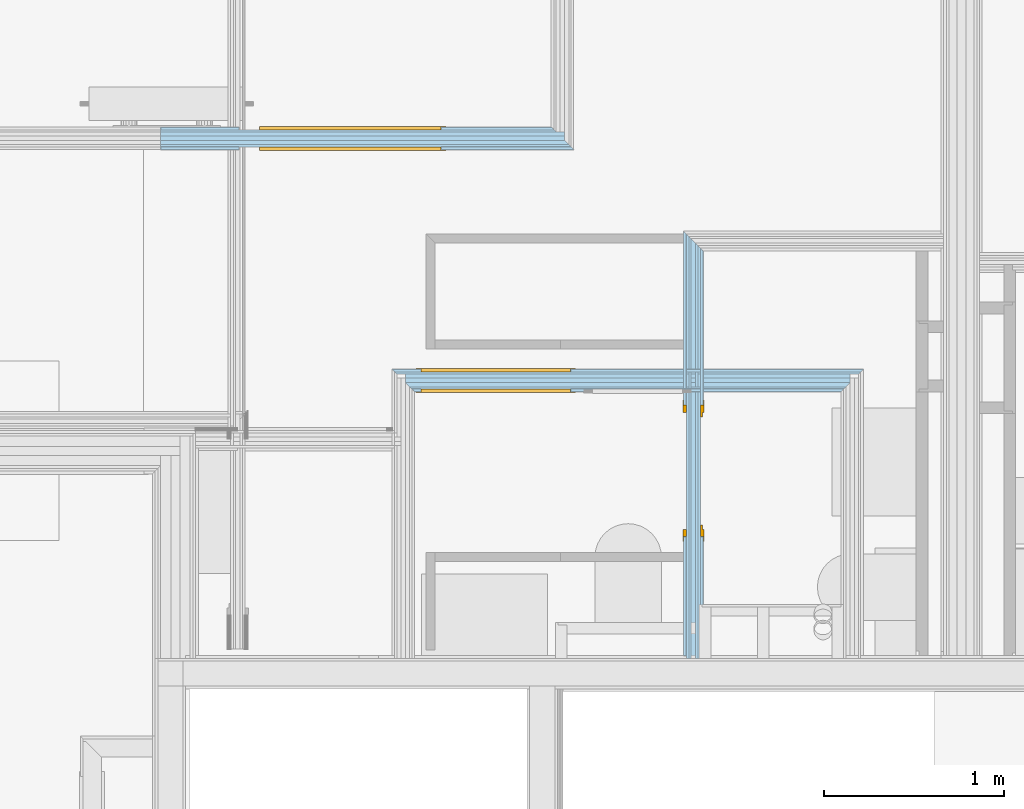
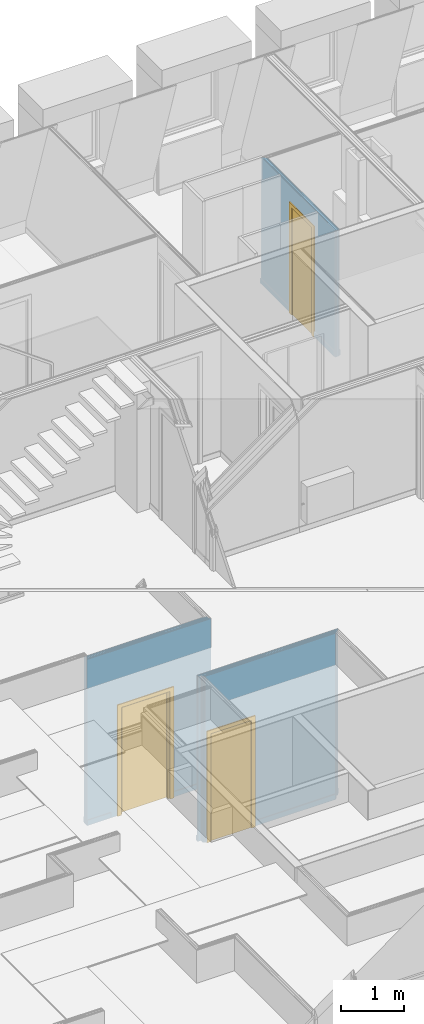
# One storey, part 88 of 169: 3 doors, 3 openings, 3 elements without a shape of their own, plus 21 elements that do not belong to this part.
"""IFC2X3 building model written with IfcOpenShell, lengths in metres."""

from ifc_helpers import new_model, entity, si_unit, converted_unit, derived_unit, money_unit, direction, frame, frame_2d, origin_with_axes, place, context, subcontext, project, spatial, polyline, rectangle, outline, extrude, faceted_brep, material, type_object, element, fill, aggregate, save


model = new_model("IFC2X3")

# Units and contexts
model_context = context("Model", 3, precision=1e-05, world=origin_with_axes(), true_north=direction((0.0, 1.0)))
body_context = subcontext(model_context, "Body", "Model", "MODEL_VIEW", scale=1.0)
ifc_project = project(units=[si_unit("LENGTHUNIT", "METRE"), si_unit("AREAUNIT", "SQUARE_METRE"), si_unit("VOLUMEUNIT", "CUBIC_METRE"), si_unit("ABSORBEDDOSEUNIT", "GRAY"), si_unit("AMOUNTOFSUBSTANCEUNIT", "MOLE"), si_unit("DOSEEQUIVALENTUNIT", "SIEVERT"), si_unit("ELECTRICCAPACITANCEUNIT", "FARAD"), si_unit("ELECTRICCHARGEUNIT", "COULOMB"), si_unit("ELECTRICCONDUCTANCEUNIT", "SIEMENS"), si_unit("ELECTRICCURRENTUNIT", "AMPERE"), si_unit("ELECTRICRESISTANCEUNIT", "OHM"), si_unit("ELECTRICVOLTAGEUNIT", "VOLT"), si_unit("ENERGYUNIT", "JOULE"), si_unit("FORCEUNIT", "NEWTON"), si_unit("FREQUENCYUNIT", "HERTZ"), si_unit("ILLUMINANCEUNIT", "LUX"), si_unit("INDUCTANCEUNIT", "HENRY"), si_unit("LUMINOUSFLUXUNIT", "LUMEN"), si_unit("LUMINOUSINTENSITYUNIT", "CANDELA"), si_unit("MAGNETICFLUXDENSITYUNIT", "TESLA"), si_unit("MAGNETICFLUXUNIT", "WEBER"), si_unit("MASSUNIT", "GRAM"), converted_unit("PLANEANGLEUNIT", "degree", entity("IfcReal", 0.0174532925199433), si_unit("PLANEANGLEUNIT", "RADIAN"), dimensions=[0, 0, 0, 0, 0, 0, 0]), si_unit("POWERUNIT", "WATT"), si_unit("PRESSUREUNIT", "PASCAL"), si_unit("RADIOACTIVITYUNIT", "BECQUEREL"), si_unit("SOLIDANGLEUNIT", "STERADIAN"), si_unit("THERMODYNAMICTEMPERATUREUNIT", "KELVIN"), si_unit("TIMEUNIT", "SECOND"), derived_unit("ACCELERATIONUNIT", [(si_unit("LENGTHUNIT", "METRE"), 1), (si_unit("TIMEUNIT", "SECOND"), -2)]), derived_unit("ANGULARVELOCITYUNIT", [(converted_unit("PLANEANGLEUNIT", "degree", entity("IfcReal", 0.0174532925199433), si_unit("PLANEANGLEUNIT", "RADIAN"), dimensions=[0, 0, 0, 0, 0, 0, 0]), 1), (si_unit("TIMEUNIT", "SECOND"), -1)]), derived_unit("CURVATUREUNIT", [(converted_unit("PLANEANGLEUNIT", "degree", entity("IfcReal", 0.0174532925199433), si_unit("PLANEANGLEUNIT", "RADIAN"), dimensions=[0, 0, 0, 0, 0, 0, 0]), 1), (si_unit("LENGTHUNIT", "METRE"), -1)]), derived_unit("DYNAMICVISCOSITYUNIT", [(si_unit("PRESSUREUNIT", "PASCAL"), 1), (si_unit("TIMEUNIT", "SECOND"), 1)]), derived_unit("HEATFLUXDENSITYUNIT", [(si_unit("POWERUNIT", "WATT"), 1), (si_unit("LENGTHUNIT", "METRE"), -2)]), derived_unit("HEATINGVALUEUNIT", [(si_unit("ENERGYUNIT", "JOULE"), 1), (si_unit("MASSUNIT", "GRAM"), -1)]), derived_unit("INTEGERCOUNTRATEUNIT", [(si_unit("TIMEUNIT", "SECOND"), -1)]), derived_unit("IONCONCENTRATIONUNIT", [(si_unit("MASSUNIT", "GRAM"), 1), (si_unit("VOLUMEUNIT", "CUBIC_METRE"), -1)]), derived_unit("ISOTHERMALMOISTURECAPACITYUNIT", [(si_unit("VOLUMEUNIT", "CUBIC_METRE"), 1), (si_unit("MASSUNIT", "GRAM"), -1)]), derived_unit("KINEMATICVISCOSITYUNIT", [(si_unit("AREAUNIT", "SQUARE_METRE"), 1), (si_unit("TIMEUNIT", "SECOND"), -1)]), derived_unit("LINEARFORCEUNIT", [(si_unit("FORCEUNIT", "NEWTON"), 1), (si_unit("LENGTHUNIT", "METRE"), -1)]), derived_unit("LINEARMOMENTUNIT", [(si_unit("FORCEUNIT", "NEWTON"), 1), (si_unit("LENGTHUNIT", "METRE"), -1)]), derived_unit("LINEARSTIFFNESSUNIT", [(si_unit("FORCEUNIT", "NEWTON"), 1), (si_unit("LENGTHUNIT", "METRE"), -1)]), derived_unit("LINEARVELOCITYUNIT", [(si_unit("LENGTHUNIT", "METRE"), 1), (si_unit("TIMEUNIT", "SECOND"), -1)]), derived_unit("LUMINOUSINTENSITYDISTRIBUTIONUNIT", [(si_unit("LUMINOUSINTENSITYUNIT", "CANDELA"), 1), (si_unit("LUMINOUSFLUXUNIT", "LUMEN"), -1)]), derived_unit("MASSDENSITYUNIT", [(si_unit("MASSUNIT", "GRAM"), 1), (si_unit("VOLUMEUNIT", "CUBIC_METRE"), -1)]), derived_unit("MASSFLOWRATEUNIT", [(si_unit("MASSUNIT", "GRAM"), 1), (si_unit("TIMEUNIT", "SECOND"), -1)]), derived_unit("MASSPERLENGTHUNIT", [(si_unit("MASSUNIT", "GRAM"), 1), (si_unit("LENGTHUNIT", "METRE"), -1)]), derived_unit("MODULUSOFELASTICITYUNIT", [(si_unit("FORCEUNIT", "NEWTON"), 1), (si_unit("AREAUNIT", "SQUARE_METRE"), -1)]), derived_unit("MODULUSOFLINEARSUBGRADEREACTIONUNIT", [(si_unit("FORCEUNIT", "NEWTON"), 1), (si_unit("LENGTHUNIT", "METRE"), -2)]), derived_unit("MODULUSOFROTATIONALSUBGRADEREACTIONUNIT", [(si_unit("FORCEUNIT", "NEWTON"), 1), (si_unit("LENGTHUNIT", "METRE"), 1)]), derived_unit("MODULUSOFSUBGRADEREACTIONUNIT", [(si_unit("FORCEUNIT", "NEWTON"), 1), (si_unit("VOLUMEUNIT", "CUBIC_METRE"), -1)]), derived_unit("MOISTUREDIFFUSIVITYUNIT", [(si_unit("VOLUMEUNIT", "CUBIC_METRE"), 1), (si_unit("TIMEUNIT", "SECOND"), -1)]), derived_unit("MOLECULARWEIGHTUNIT", [(si_unit("MASSUNIT", "GRAM"), 1), (si_unit("AMOUNTOFSUBSTANCEUNIT", "MOLE"), -1)]), derived_unit("PLANARFORCEUNIT", [(si_unit("FORCEUNIT", "NEWTON"), 1), (si_unit("LENGTHUNIT", "METRE"), -2)]), derived_unit("ROTATIONALFREQUENCYUNIT", [(si_unit("TIMEUNIT", "SECOND"), -1)]), derived_unit("ROTATIONALMASSUNIT", [(si_unit("MASSUNIT", "GRAM"), 1), (si_unit("LENGTHUNIT", "METRE"), 2)]), derived_unit("ROTATIONALSTIFFNESSUNIT", [(si_unit("FORCEUNIT", "NEWTON"), 1), (si_unit("LENGTHUNIT", "METRE"), 1), (converted_unit("PLANEANGLEUNIT", "degree", entity("IfcReal", 0.0174532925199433), si_unit("PLANEANGLEUNIT", "RADIAN"), dimensions=[0, 0, 0, 0, 0, 0, 0]), -1)]), derived_unit("SECTIONAREAINTEGRALUNIT", [(si_unit("LENGTHUNIT", "METRE"), 5)]), derived_unit("SECTIONMODULUSUNIT", [(si_unit("LENGTHUNIT", "METRE"), 3)]), derived_unit("SHEARMODULUSUNIT", [(si_unit("FORCEUNIT", "NEWTON"), 1), (si_unit("AREAUNIT", "SQUARE_METRE"), -1)]), derived_unit("SOUNDPOWERUNIT", [(si_unit("ENERGYUNIT", "JOULE"), 1), (si_unit("TIMEUNIT", "SECOND"), -1)]), derived_unit("SPECIFICHEATCAPACITYUNIT", [(si_unit("FORCEUNIT", "NEWTON"), 1), (si_unit("MASSUNIT", "GRAM"), -1), (si_unit("THERMODYNAMICTEMPERATUREUNIT", "KELVIN"), -1)]), derived_unit("TEMPERATUREGRADIENTUNIT", [(si_unit("THERMODYNAMICTEMPERATUREUNIT", "KELVIN"), 1), (si_unit("LENGTHUNIT", "METRE"), -1)]), derived_unit("THERMALADMITTANCEUNIT", [(si_unit("POWERUNIT", "WATT"), 1), (si_unit("AREAUNIT", "SQUARE_METRE"), -1), (si_unit("THERMODYNAMICTEMPERATUREUNIT", "KELVIN"), -1)]), derived_unit("THERMALCONDUCTANCEUNIT", [(si_unit("POWERUNIT", "WATT"), 1), (si_unit("LENGTHUNIT", "METRE"), -1), (si_unit("THERMODYNAMICTEMPERATUREUNIT", "KELVIN"), -1)]), derived_unit("THERMALEXPANSIONCOEFFICIENTUNIT", [(si_unit("THERMODYNAMICTEMPERATUREUNIT", "KELVIN"), -1)]), derived_unit("THERMALRESISTANCEUNIT", [(si_unit("AREAUNIT", "SQUARE_METRE"), 1), (si_unit("POWERUNIT", "WATT"), -1)]), derived_unit("THERMALTRANSMITTANCEUNIT", [(si_unit("POWERUNIT", "WATT"), 1), (si_unit("AREAUNIT", "SQUARE_METRE"), -1), (si_unit("THERMODYNAMICTEMPERATUREUNIT", "KELVIN"), -1)]), derived_unit("TORQUEUNIT", [(si_unit("FORCEUNIT", "NEWTON"), 1), (si_unit("LENGTHUNIT", "METRE"), 1)]), derived_unit("VAPORPERMEABILITYUNIT", [(si_unit("MASSUNIT", "GRAM"), 1), (si_unit("TIMEUNIT", "SECOND"), -1)]), derived_unit("VOLUMETRICFLOWRATEUNIT", [(si_unit("VOLUMEUNIT", "CUBIC_METRE"), 1), (si_unit("TIMEUNIT", "SECOND"), -1)]), derived_unit("WARPINGCONSTANTUNIT", [(si_unit("LENGTHUNIT", "METRE"), 6)]), derived_unit("WARPINGMOMENTUNIT", [(si_unit("FORCEUNIT", "NEWTON"), 1), (si_unit("LENGTHUNIT", "METRE"), 2)]), money_unit("GBP")], contexts=[model_context])

# Site, building, storey, space
site_placement = place(None, origin_with_axes())
site = spatial("IfcSite", under=ifc_project, at=site_placement, Name="Site", CompositionType="ELEMENT")
building_placement = place(site_placement, origin_with_axes())
building = spatial("IfcBuilding", under=site, at=building_placement, Name="Building01", CompositionType="ELEMENT")
storey_placement = place(building_placement, frame((0.0, 0.0, 5.15), z_axis=(0.0, 0.0, 1.0), x_axis=(1.0, 0.0, 0.0)))
storey = spatial("IfcBuildingStorey", under=building, at=storey_placement, Name="1F", CompositionType="ELEMENT", Elevation=5.15)
space_1_placement = place(storey_placement, frame((1.009939, 13.890379, 9.86), z_axis=(0.0, 0.0, 1.0), x_axis=(0.0, -1.0, 0.0)))
space_1 = spatial("IfcSpace", under=storey, at=space_1_placement, Name="26", CompositionType="ELEMENT", InteriorOrExteriorSpace="NOTDEFINED")

# Door
ifc_material_1 = material(Name="A_BSUK_Doors")
door_style_1 = type_object("IfcDoorStyle", Name="A-Doors-SingleFlush", ConstructionType="USERDEFINED", OperationType="SINGLE_SWING_RIGHT", ParameterTakesPrecedence=False, Sizeable=False)
wall_3_placement = place(storey_placement, frame((12.044381, 11.156849, 9.83), z_axis=(0.0, 0.0, 1.0), x_axis=(0.0, -1.0, 0.0)))
opening_3_placement = place(wall_3_placement, frame((0.926, -0.042, 0.0), z_axis=(0.0, 0.0, 1.0), x_axis=(1.0, 0.0, 0.0)))
door_1_placement = place(opening_3_placement, frame((0.692, 0.015, 0.0), z_axis=(0.0, 0.0, 1.0), x_axis=(-1.0, 0.0, 0.0)))
door_1 = element("IfcDoor", 1, at=door_1_placement, inside=space_1, type_object=door_style_1, material=ifc_material_1, Name="4.31", ObjectType="A-Doors-SingleFlush", OverallHeight=2.142, OverallWidth=0.734, context=body_context, shape_type="Brep", body=[
    faceted_brep([(0.65, -0.099, 0.0), (0.719, -0.099, 0.0), (0.719, -0.099, 2.169), (-0.069, -0.099, 2.169), (-0.069, -0.099, 0.0), (0.0, -0.099, 0.0), (0.0, -0.099, 2.1), (0.65, -0.099, 2.1), (-0.069, -0.08, 0.0), (-0.069, -0.08, 2.169), (0.719, -0.08, 2.169), (0.719, -0.08, 0.0), (0.65, 0.019, 0.0), (0.719, 0.019, 0.0), (0.719, 0.0, 0.0), (0.692, 0.0, 0.0), (0.692, -0.08, 0.0), (0.65, 0.019, 2.1), (0.0, 0.019, 2.1), (0.0, 0.019, 0.0), (-0.069, 0.019, 0.0), (-0.069, 0.019, 2.169), (0.719, 0.019, 2.169), (0.719, 0.0, 2.169), (0.692, -0.08, 2.142), (0.692, 0.0, 2.142), (-0.042, -0.08, 2.142), (-0.042, 0.0, 2.142), (-0.042, -0.08, 0.0), (-0.042, 0.0, 0.0), (-0.069, 0.0, 2.169), (-0.069, 0.0, 0.0)], [[[0, 1, 2, 3, 4, 5, 6, 7]], [[8, 4, 3, 9]], [[10, 2, 1, 11]], [[9, 3, 2, 10]], [[12, 13, 14, 15, 16, 11, 1, 0]], [[7, 17, 12, 0]], [[6, 18, 17, 7]], [[18, 19, 20, 21, 22, 13, 12, 17]], [[5, 19, 18, 6]], [[13, 22, 23, 14]], [[24, 16, 15, 25]], [[26, 24, 25, 27]], [[11, 16, 24, 26, 28, 8, 9, 10]], [[27, 29, 28, 26]], [[25, 15, 14, 23, 30, 31, 29, 27]], [[5, 4, 8, 28, 29, 31, 20, 19]], [[30, 21, 20, 31]], [[23, 22, 21, 30]]]),
    faceted_brep([(0.0, -0.09, 2.1), (0.0, -0.04, 2.1), (0.0, -0.04, 0.0), (0.0, -0.09, 0.0), (0.625, -0.09, 0.0), (0.65, -0.09, 0.0), (0.65, -0.09, 2.1), (0.025, -0.09, 0.0), (0.025, -0.09, 2.075), (0.625, -0.09, 2.075), (0.625, -0.04, 0.0), (0.65, -0.04, 0.0), (0.65, -0.04, 2.1), (0.025, -0.04, 2.075), (0.025, -0.04, 0.0), (0.625, -0.04, 2.075)], [[[0, 1, 2, 3]], [[4, 5, 6, 0, 3, 7, 8, 9]], [[10, 11, 5, 4]], [[6, 12, 1, 0]], [[5, 11, 12, 6]], [[13, 14, 2, 1, 12, 11, 10, 15]], [[7, 14, 13, 8]], [[7, 3, 2, 14]], [[9, 15, 10, 4]], [[8, 13, 15, 9]]]),
    faceted_brep([(0.65, -0.04, 0.0), (0.65, 0.0, 0.0), (0.65, 0.0, 2.1), (0.65, -0.04, 2.1), (0.0, -0.04, 2.1), (0.0, 0.0, 2.1), (0.0, 0.0, 0.0), (0.0, -0.04, 0.0)], [[[0, 1, 2, 3]], [[4, 5, 6, 7]], [[7, 6, 1, 0]], [[3, 4, 7, 0]], [[3, 2, 5, 4]], [[1, 6, 5, 2]]]),
])

# Space
space_2_placement = place(storey_placement, frame((7.289669, 14.582, 0.017975), z_axis=(0.0, 0.0, 1.0), x_axis=(0.0, -1.0, 0.0)))
space_2 = spatial("IfcSpace", under=storey, at=space_2_placement, Name="08", CompositionType="ELEMENT", InteriorOrExteriorSpace="NOTDEFINED")

# Door
door_style_2 = type_object("IfcDoorStyle", Name="A-Doors-SingleFlush", ConstructionType="USERDEFINED", OperationType="SINGLE_SWING_RIGHT", ParameterTakesPrecedence=False, Sizeable=False)
wall_1_placement = place(storey_placement, frame((10.453871, 10.355, 0.0), z_axis=(0.0, 0.0, 1.0), x_axis=(1.0, 0.0, 0.0)))
opening_1_placement = place(wall_1_placement, frame((0.086065, -0.05, 0.0), z_axis=(0.0, 0.0, 1.0), x_axis=(1.0, 0.0, 0.0)))
door_2_placement = place(opening_1_placement, frame((0.792, 0.015, 0.0), z_axis=(0.0, 0.0, 1.0), x_axis=(-1.0, 0.0, 0.0)))
door_2 = element("IfcDoor", 2, at=door_2_placement, inside=space_2, type_object=door_style_2, material=ifc_material_1, Name="1.26", ObjectType="A-Doors-SingleFlush", OverallHeight=2.142, OverallWidth=0.834, context=body_context, shape_type="Brep", body=[
    faceted_brep([(0.75, -0.114, 0.0), (0.819, -0.114, 0.0), (0.819, -0.114, 2.169), (-0.069, -0.114, 2.169), (-0.069, -0.114, 0.0), (0.0, -0.114, 0.0), (0.0, -0.114, 2.1), (0.75, -0.114, 2.1), (-0.069, -0.095, 0.0), (-0.069, -0.095, 2.169), (0.819, -0.095, 2.169), (0.819, -0.095, 0.0), (0.75, 0.019, 0.0), (0.819, 0.019, 0.0), (0.819, 0.0, 0.0), (0.792, 0.0, 0.0), (0.792, -0.095, 0.0), (0.75, 0.019, 2.1), (0.0, 0.019, 2.1), (0.0, 0.019, 0.0), (-0.069, 0.019, 0.0), (-0.069, 0.019, 2.169), (0.819, 0.019, 2.169), (0.819, 0.0, 2.169), (0.792, -0.095, 2.142), (0.792, 0.0, 2.142), (-0.042, -0.095, 2.142), (-0.042, 0.0, 2.142), (-0.042, -0.095, 0.0), (-0.042, 0.0, 0.0), (-0.069, 0.0, 2.169), (-0.069, 0.0, 0.0)], [[[0, 1, 2, 3, 4, 5, 6, 7]], [[8, 4, 3, 9]], [[10, 2, 1, 11]], [[9, 3, 2, 10]], [[12, 13, 14, 15, 16, 11, 1, 0]], [[7, 17, 12, 0]], [[6, 18, 17, 7]], [[18, 19, 20, 21, 22, 13, 12, 17]], [[5, 19, 18, 6]], [[13, 22, 23, 14]], [[24, 16, 15, 25]], [[26, 24, 25, 27]], [[11, 16, 24, 26, 28, 8, 9, 10]], [[27, 29, 28, 26]], [[25, 15, 14, 23, 30, 31, 29, 27]], [[5, 4, 8, 28, 29, 31, 20, 19]], [[30, 21, 20, 31]], [[23, 22, 21, 30]]]),
    faceted_brep([(0.0, -0.09, 2.1), (0.0, -0.04, 2.1), (0.0, -0.04, 0.0), (0.0, -0.09, 0.0), (0.725, -0.09, 0.0), (0.75, -0.09, 0.0), (0.75, -0.09, 2.1), (0.025, -0.09, 0.0), (0.025, -0.09, 2.075), (0.725, -0.09, 2.075), (0.725, -0.04, 0.0), (0.75, -0.04, 0.0), (0.75, -0.04, 2.1), (0.025, -0.04, 2.075), (0.025, -0.04, 0.0), (0.725, -0.04, 2.075)], [[[0, 1, 2, 3]], [[4, 5, 6, 0, 3, 7, 8, 9]], [[10, 11, 5, 4]], [[6, 12, 1, 0]], [[5, 11, 12, 6]], [[13, 14, 2, 1, 12, 11, 10, 15]], [[7, 14, 13, 8]], [[7, 3, 2, 14]], [[9, 15, 10, 4]], [[8, 13, 15, 9]]]),
    faceted_brep([(0.75, -0.04, 0.0), (0.75, 0.0, 0.0), (0.75, 0.0, 2.1), (0.75, -0.04, 2.1), (0.0, -0.04, 2.1), (0.0, 0.0, 2.1), (0.0, 0.0, 0.0), (0.0, -0.04, 0.0)], [[[0, 1, 2, 3]], [[4, 5, 6, 7]], [[7, 6, 1, 0]], [[3, 4, 7, 0]], [[3, 2, 5, 4]], [[1, 6, 5, 2]]]),
])

wall_2_placement = place(storey_placement, frame((9.09, 11.703124, 0.0), z_axis=(0.0, 0.0, 1.0), x_axis=(1.0, 0.0, 0.0)))
opening_2_placement = place(wall_2_placement, frame((0.579, -0.05, -0.015), z_axis=(0.0, 0.0, 1.0), x_axis=(1.0, 0.0, 0.0)))
door_3_placement = place(opening_2_placement, frame((0.042, 0.11, 0.015), z_axis=(0.0, 0.0, 1.0), x_axis=(1.0, 0.0, 0.0)))
door_3 = element("IfcDoor", 3, at=door_3_placement, inside=space_2, type_object=door_style_2, material=ifc_material_1, Name="1.25", ObjectType="A-Doors-SingleFlush", OverallHeight=2.142, OverallWidth=1.127117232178, context=body_context, shape_type="Brep", body=[
    faceted_brep([(0.9, -0.114, 0.0), (0.969, -0.114, 0.0), (0.969, -0.114, 2.169), (-0.069, -0.114, 2.169), (-0.069, -0.114, 0.0), (0.0, -0.114, 0.0), (0.0, -0.114, 2.1), (0.9, -0.114, 2.1), (-0.069, -0.095, 0.0), (-0.069, -0.095, 2.169), (0.969, -0.095, 2.169), (0.969, -0.095, 0.0), (0.9, 0.019, 0.0), (0.969, 0.019, 0.0), (0.969, 0.0, 0.0), (0.942, 0.0, 0.0), (0.942, -0.095, 0.0), (0.9, 0.019, 2.1), (0.0, 0.019, 2.1), (0.0, 0.019, 0.0), (-0.069, 0.019, 0.0), (-0.069, 0.019, 2.169), (0.969, 0.019, 2.169), (0.969, 0.0, 2.169), (0.942, -0.095, 2.142), (0.942, 0.0, 2.142), (-0.042, -0.095, 2.142), (-0.042, 0.0, 2.142), (-0.042, -0.095, 0.0), (-0.042, 0.0, 0.0), (-0.069, 0.0, 2.169), (-0.069, 0.0, 0.0)], [[[0, 1, 2, 3, 4, 5, 6, 7]], [[8, 4, 3, 9]], [[10, 2, 1, 11]], [[9, 3, 2, 10]], [[12, 13, 14, 15, 16, 11, 1, 0]], [[7, 17, 12, 0]], [[6, 18, 17, 7]], [[18, 19, 20, 21, 22, 13, 12, 17]], [[5, 19, 18, 6]], [[13, 22, 23, 14]], [[24, 16, 15, 25]], [[26, 24, 25, 27]], [[11, 16, 24, 26, 28, 8, 9, 10]], [[27, 29, 28, 26]], [[25, 15, 14, 23, 30, 31, 29, 27]], [[5, 4, 8, 28, 29, 31, 20, 19]], [[30, 21, 20, 31]], [[23, 22, 21, 30]]]),
    faceted_brep([(0.0, -0.09, 2.1), (0.0, -0.04, 2.1), (0.0, -0.04, 0.0), (0.0, -0.09, 0.0), (0.875, -0.09, 0.0), (0.9, -0.09, 0.0), (0.9, -0.09, 2.1), (0.025, -0.09, 0.0), (0.025, -0.09, 2.075), (0.875, -0.09, 2.075), (0.875, -0.04, 0.0), (0.9, -0.04, 0.0), (0.9, -0.04, 2.1), (0.025, -0.04, 2.075), (0.025, -0.04, 0.0), (0.875, -0.04, 2.075)], [[[0, 1, 2, 3]], [[4, 5, 6, 0, 3, 7, 8, 9]], [[10, 11, 5, 4]], [[6, 12, 1, 0]], [[5, 11, 12, 6]], [[13, 14, 2, 1, 12, 11, 10, 15]], [[7, 14, 13, 8]], [[7, 3, 2, 14]], [[9, 15, 10, 4]], [[8, 13, 15, 9]]]),
    faceted_brep([(0.9, -0.04, 0.0), (0.9, 0.0, 0.0), (0.9, 0.0, 2.1), (0.9, -0.04, 2.1), (0.0, -0.04, 2.1), (0.0, 0.0, 2.1), (0.0, 0.0, 0.0), (0.0, -0.04, 0.0)], [[[0, 1, 2, 3]], [[4, 5, 6, 7]], [[7, 6, 1, 0]], [[3, 4, 7, 0]], [[3, 2, 5, 4]], [[1, 6, 5, 2]]]),
])

# Wall, opening
wall_type_1 = type_object("IfcWallType", Name="SHE_A-Walls_Type05a_Partition_95mm_tall", PredefinedType="NOTDEFINED")
wall_1 = element("IfcWall", 4, at=wall_1_placement, inside=storey, type_object=wall_type_1, Name="5A", ObjectType="SHE_A-Walls_Type05a_Partition_95mm_tall")
opening_1 = element("IfcOpeningElement", 5, at=opening_1_placement, cuts=wall_1, Name="Opening", ObjectType="Opening", context=body_context, shape_type="SweptSolid", body=[
    extrude(rectangle(XDim=0.834, YDim=2.142, at=frame_2d((-0.417, 1.071), x_axis=(1.0, 0.0))), frame((0.0, 0.0, 0.0), z_axis=(0.0, 1.0, 0.0), x_axis=(-1.0, 0.0, 0.0)), (0.0, 0.0, 1.0), 0.125),
])

fill(opening_1, door_2)

# Building element part
ifc_material_2 = material(Name="A_BSUK_Walls_Timber")
placement_1 = place(wall_1_placement, origin_with_axes())
building_element_part_1 = element("IfcBuildingElementPart", 6, at=placement_1, material=ifc_material_2, Name="1", context=body_context, shape_type="SweptSolid", body=[
    extrude(outline(polyline([(2.439714, -0.035), (0.035, -0.035), (0.05, -0.05), (2.424714, -0.05), (2.439714, -0.035)])), frame((0.0, 0.0, 0.015), z_axis=(0.0, 0.0, 1.0), x_axis=(1.0, 0.0, 0.0)), (0.0, 0.0, 1.0), 0.1),
])

ifc_material_3 = material(Name="A_BSUK_WallInternal_Finishes_Plasterboard")
building_element_part_2 = element("IfcBuildingElementPart", 7, at=placement_1, material=ifc_material_3, Name="2", context=body_context, shape_type="SweptSolid", body=[
    extrude(outline(polyline([(2.451714, -0.023), (0.023, -0.023), (0.035, -0.035), (2.439714, -0.035), (2.451714, -0.023)])), origin_with_axes(), (0.0, 0.0, 1.0), 3.24),
])

ifc_material_4 = material(Name="Air Cavity")
building_element_part_3 = element("IfcBuildingElementPart", 8, at=placement_1, material=ifc_material_4, Name="3", context=body_context, shape_type="SweptSolid", body=[
    extrude(outline(polyline([(2.474714, 0.0), (0.0, 0.0), (0.023, -0.023), (2.451714, -0.023), (2.474714, 0.0)])), origin_with_axes(), (0.0, 0.0, 1.0), 3.24),
])

ifc_material_5 = material(Name="A_BSUK_Insulation")
building_element_part_4 = element("IfcBuildingElementPart", 9, at=placement_1, material=ifc_material_5, Name="4", context=body_context, shape_type="SweptSolid", body=[
    extrude(rectangle(XDim=2.474714, YDim=0.025, at=frame_2d((1.237357, 0.0125), x_axis=(-1.0, 0.0))), origin_with_axes(), (0.0, 0.0, 1.0), 3.24),
])

building_element_part_5 = element("IfcBuildingElementPart", 10, at=placement_1, material=ifc_material_4, Name="5", context=body_context, shape_type="SweptSolid", body=[
    extrude(rectangle(XDim=2.474714, YDim=0.023, at=frame_2d((1.237357, 0.0365), x_axis=(-1.0, 0.0))), origin_with_axes(), (0.0, 0.0, 1.0), 3.24),
])

building_element_part_6 = element("IfcBuildingElementPart", 11, at=placement_1, material=ifc_material_3, Name="6", context=body_context, shape_type="SweptSolid", body=[
    extrude(outline(polyline([(2.534714, 0.06), (-0.06, 0.06), (-0.048, 0.048), (2.522714, 0.048), (2.534714, 0.06)])), origin_with_axes(), (0.0, 0.0, 1.0), 3.24),
])

building_element_part_7 = element("IfcBuildingElementPart", 12, at=placement_1, material=ifc_material_2, Name="7", context=body_context, shape_type="SweptSolid", body=[
    extrude(outline(polyline([(2.549714, 0.075), (-0.075, 0.075), (-0.06, 0.06), (2.534714, 0.06), (2.549714, 0.075)])), frame((0.0, 0.0, 0.015), z_axis=(0.0, 0.0, 1.0), x_axis=(1.0, 0.0, 0.0)), (0.0, 0.0, 1.0), 0.1),
])

aggregate(wall_1, [building_element_part_1, building_element_part_2, building_element_part_3, building_element_part_4, building_element_part_5, building_element_part_6, building_element_part_7])

# Wall, opening
wall_2 = element("IfcWall", 13, at=wall_2_placement, inside=storey, type_object=wall_type_1, Name="5A", ObjectType="SHE_A-Walls_Type05a_Partition_95mm_tall")
opening_2 = element("IfcOpeningElement", 14, at=opening_2_placement, cuts=wall_2, Name="Opening", ObjectType="Opening", context=body_context, shape_type="SweptSolid", body=[
    extrude(outline(polyline([(-0.042, 0.0), (-0.042, 0.015), (0.0, 0.015), (0.0, 2.157), (-0.984, 2.157), (-0.984, 0.015), (-0.840883, 0.015), (-0.840883, 0.0), (-0.042, 0.0)])), frame((0.0, 0.0, 0.0), z_axis=(0.0, 1.0, 0.0), x_axis=(-1.0, 0.0, 0.0)), (0.0, 0.0, 1.0), 0.125),
    extrude(outline(polyline([(-0.942, 0.015), (-0.942, 0.0), (-0.042, 0.0), (-0.042, 0.015), (0.0, 0.015), (0.0, 2.157), (-0.984, 2.157), (-0.984, 0.015), (-0.942, 0.015)])), frame((0.0, 0.015, 0.0), z_axis=(0.0, 1.0, 0.0), x_axis=(-1.0, 0.0, 0.0)), (0.0, 0.0, 1.0), 0.012),
    extrude(outline(polyline([(0.0, 2.142), (0.0, 2.157), (-0.984, 2.157), (-0.984, 0.015), (-0.840883, 0.015), (-0.840883, 0.0), (0.143117, 0.0), (0.143117, 2.142), (0.0, 2.142)])), frame((0.0, 0.0, 0.0), z_axis=(0.0, 1.0, 0.0), x_axis=(-1.0, 0.0, 0.0)), (0.0, 0.0, 1.0), 0.015),
    extrude(outline(polyline([(-0.942, 0.015), (-0.942, 0.0), (-0.042, 0.0), (-0.042, 0.015), (0.0, 0.015), (0.0, 2.157), (-0.984, 2.157), (-0.984, 0.015), (-0.942, 0.015)])), frame((0.0, 0.027, 0.0), z_axis=(0.0, 1.0, 0.0), x_axis=(-1.0, 0.0, 0.0)), (0.0, 0.0, 1.0), 0.023),
    extrude(outline(polyline([(-0.942, 0.015), (-0.942, 0.0), (-0.042, 0.0), (-0.042, 0.015), (0.0, 0.015), (0.0, 2.157), (-0.984, 2.157), (-0.984, 0.015), (-0.942, 0.015)])), frame((0.0, 0.05, 0.0), z_axis=(0.0, 1.0, 0.0), x_axis=(-1.0, 0.0, 0.0)), (0.0, 0.0, 1.0), 0.025),
    extrude(outline(polyline([(-0.942, 0.015), (-0.942, 0.0), (-0.042, 0.0), (-0.042, 0.015), (0.0, 0.015), (0.0, 2.157), (-0.984, 2.157), (-0.984, 0.015), (-0.942, 0.015)])), frame((0.0, 0.075, 0.0), z_axis=(0.0, 1.0, 0.0), x_axis=(-1.0, 0.0, 0.0)), (0.0, 0.0, 1.0), 0.023),
    extrude(outline(polyline([(-0.942, 0.015), (-0.942, 0.0), (-0.042, 0.0), (-0.042, 0.015), (0.0, 0.015), (0.0, 2.157), (-0.984, 2.157), (-0.984, 0.015), (-0.942, 0.015)])), frame((0.0, 0.098, 0.0), z_axis=(0.0, 1.0, 0.0), x_axis=(-1.0, 0.0, 0.0)), (0.0, 0.0, 1.0), 0.012),
    extrude(outline(polyline([(-0.840883, 0.015), (-0.840883, 0.0), (0.143117, 0.0), (0.143117, 2.142), (0.0, 2.142), (0.0, 2.157), (-0.984, 2.157), (-0.984, 0.015), (-0.840883, 0.015)])), frame((0.0, 0.11, 0.0), z_axis=(0.0, 1.0, 0.0), x_axis=(-1.0, 0.0, 0.0)), (0.0, 0.0, 1.0), 0.015),
])

fill(opening_2, door_3)

# Building element part
placement_2 = place(wall_2_placement, origin_with_axes())
building_element_part_8 = element("IfcBuildingElementPart", 15, at=placement_2, material=ifc_material_2, Name="1", context=body_context, shape_type="SweptSolid", body=[
    extrude(outline(polyline([(2.285, -0.035), (0.0, -0.035), (0.0, -0.05), (2.3, -0.05), (2.285, -0.035)])), frame((0.0, 0.0, 0.015), z_axis=(0.0, 0.0, 1.0), x_axis=(1.0, 0.0, 0.0)), (0.0, 0.0, 1.0), 0.1),
])

building_element_part_9 = element("IfcBuildingElementPart", 16, at=placement_2, material=ifc_material_3, Name="2", context=body_context, shape_type="SweptSolid", body=[
    extrude(outline(polyline([(2.273, -0.023), (0.0, -0.023), (0.0, -0.035), (2.285, -0.035), (2.273, -0.023)])), origin_with_axes(), (0.0, 0.0, 1.0), 3.24),
])

building_element_part_10 = element("IfcBuildingElementPart", 17, at=placement_2, material=ifc_material_4, Name="3", context=body_context, shape_type="SweptSolid", body=[
    extrude(outline(polyline([(2.25, 0.0), (0.0, 0.0), (0.0, -0.023), (2.273, -0.023), (2.25, 0.0)])), origin_with_axes(), (0.0, 0.0, 1.0), 3.24),
])

building_element_part_11 = element("IfcBuildingElementPart", 18, at=placement_2, material=ifc_material_5, Name="4", context=body_context, shape_type="SweptSolid", body=[
    extrude(rectangle(XDim=2.25, YDim=0.025, at=frame_2d((1.125, 0.0125), x_axis=(-1.0, 0.0))), origin_with_axes(), (0.0, 0.0, 1.0), 3.24),
])

building_element_part_12 = element("IfcBuildingElementPart", 19, at=placement_2, material=ifc_material_4, Name="5", context=body_context, shape_type="SweptSolid", body=[
    extrude(rectangle(XDim=2.25, YDim=0.023, at=frame_2d((1.125, 0.0365), x_axis=(-1.0, 0.0))), origin_with_axes(), (0.0, 0.0, 1.0), 3.24),
])

building_element_part_13 = element("IfcBuildingElementPart", 20, at=placement_2, material=ifc_material_3, Name="6", context=body_context, shape_type="SweptSolid", body=[
    extrude(outline(polyline([(2.19, 0.06), (0.0, 0.06), (0.0, 0.048), (2.202, 0.048), (2.19, 0.06)])), origin_with_axes(), (0.0, 0.0, 1.0), 3.24),
])

building_element_part_14 = element("IfcBuildingElementPart", 21, at=placement_2, material=ifc_material_2, Name="7", context=body_context, shape_type="SweptSolid", body=[
    extrude(outline(polyline([(2.175, 0.075), (0.0, 0.075), (0.0, 0.06), (2.19, 0.06), (2.175, 0.075)])), frame((0.0, 0.0, 0.015), z_axis=(0.0, 0.0, 1.0), x_axis=(1.0, 0.0, 0.0)), (0.0, 0.0, 1.0), 0.1),
])

aggregate(wall_2, [building_element_part_8, building_element_part_9, building_element_part_10, building_element_part_11, building_element_part_12, building_element_part_13, building_element_part_14])

# Wall, opening
wall_type_2 = type_object("IfcWallType", Name="SHE_A-Walls_Type05b_Partition_80mm", PredefinedType="NOTDEFINED")
wall_3 = element("IfcWall", 22, at=wall_3_placement, inside=storey, type_object=wall_type_2, Name="5B", ObjectType="SHE_A-Walls_Type05b_Partition_80mm")
opening_3 = element("IfcOpeningElement", 23, at=opening_3_placement, cuts=wall_3, Name="Opening", ObjectType="Opening", context=body_context, shape_type="SweptSolid", body=[
    extrude(rectangle(XDim=0.734, YDim=2.142, at=frame_2d((-0.367, 1.071), x_axis=(1.0, 0.0))), frame((0.0, 0.0, 0.0), z_axis=(0.0, 1.0, 0.0), x_axis=(-1.0, 0.0, 0.0)), (0.0, 0.0, 1.0), 0.11),
])

fill(opening_3, door_1)

# Building element part
placement_3 = place(wall_3_placement, origin_with_axes())
building_element_part_15 = element("IfcBuildingElementPart", 24, at=placement_3, material=ifc_material_2, Name="1", context=body_context, shape_type="SweptSolid", body=[
    extrude(outline(polyline([(2.321849, -0.027), (-0.027, -0.027), (-0.042, -0.042), (2.321849, -0.042), (2.321849, -0.027)])), frame((0.0, 0.0, 0.015), z_axis=(0.0, 0.0, 1.0), x_axis=(1.0, 0.0, 0.0)), (0.0, 0.0, 1.0), 0.1),
])

building_element_part_16 = element("IfcBuildingElementPart", 25, at=placement_3, material=ifc_material_3, Name="2", context=body_context, shape_type="SweptSolid", body=[
    extrude(outline(polyline([(2.336849, -0.012), (-0.012, -0.012), (-0.027, -0.027), (2.336849, -0.027), (2.336849, -0.012)])), origin_with_axes(), (0.0, 0.0, 1.0), 2.468),
])

building_element_part_17 = element("IfcBuildingElementPart", 26, at=placement_3, material=ifc_material_4, Name="3", context=body_context, shape_type="SweptSolid", body=[
    extrude(outline(polyline([(2.336849, 0.0), (0.0, 0.0), (-0.012, -0.012), (2.336849, -0.012), (2.336849, 0.0)])), origin_with_axes(), (0.0, 0.0, 1.0), 2.468),
])

building_element_part_18 = element("IfcBuildingElementPart", 27, at=placement_3, material=ifc_material_5, Name="4", context=body_context, shape_type="SweptSolid", body=[
    extrude(outline(polyline([(2.336849, 0.025), (0.025, 0.025), (0.0, 0.0), (2.336849, 0.0), (2.336849, 0.025)])), origin_with_axes(), (0.0, 0.0, 1.0), 2.468),
])

building_element_part_19 = element("IfcBuildingElementPart", 28, at=placement_3, material=ifc_material_4, Name="5", context=body_context, shape_type="SweptSolid", body=[
    extrude(outline(polyline([(2.336849, 0.038), (0.038, 0.038), (0.025, 0.025), (2.336849, 0.025), (2.336849, 0.038)])), origin_with_axes(), (0.0, 0.0, 1.0), 2.468),
])

building_element_part_20 = element("IfcBuildingElementPart", 29, at=placement_3, material=ifc_material_3, Name="6", context=body_context, shape_type="SweptSolid", body=[
    extrude(outline(polyline([(2.336849, 0.053), (0.053, 0.053), (0.038, 0.038), (2.336849, 0.038), (2.336849, 0.053)])), origin_with_axes(), (0.0, 0.0, 1.0), 2.468),
])

building_element_part_21 = element("IfcBuildingElementPart", 30, at=placement_3, material=ifc_material_2, Name="7", context=body_context, shape_type="SweptSolid", body=[
    extrude(outline(polyline([(2.336849, 0.068), (0.068, 0.068), (0.053, 0.053), (2.336849, 0.053), (2.336849, 0.068)])), frame((0.0, 0.0, 0.015), z_axis=(0.0, 0.0, 1.0), x_axis=(1.0, 0.0, 0.0)), (0.0, 0.0, 1.0), 0.1),
])

aggregate(wall_3, [building_element_part_15, building_element_part_16, building_element_part_17, building_element_part_18, building_element_part_19, building_element_part_20, building_element_part_21])

save(model, "model.ifc")
